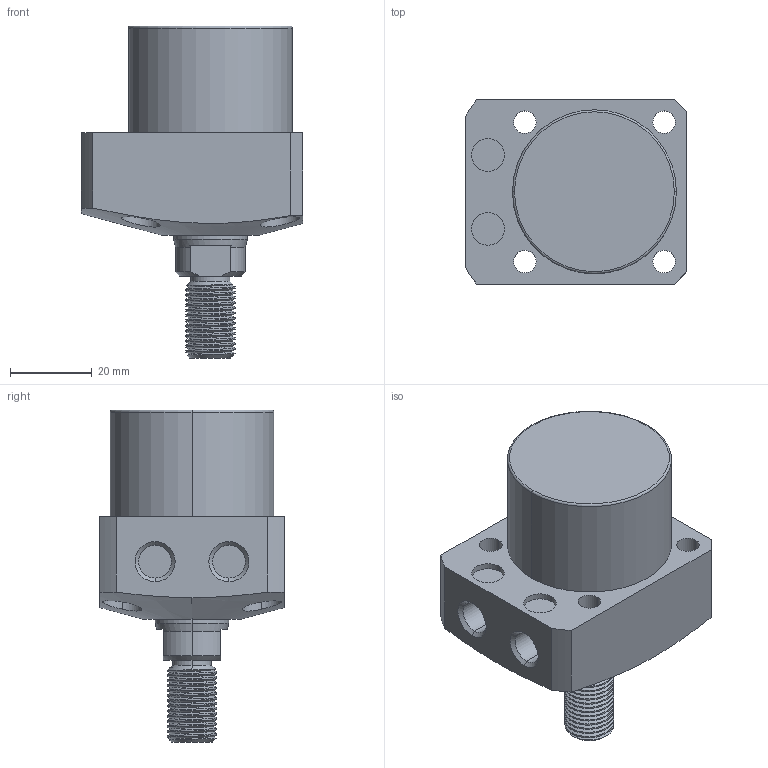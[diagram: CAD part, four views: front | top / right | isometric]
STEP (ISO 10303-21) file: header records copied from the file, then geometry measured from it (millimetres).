
FILE_DESCRIPTION (( 'STEP AP203' ), '1' );
FILE_NAME ('CLL-040CT-015.STEP', '2020-01-08T08:56:10', ( '' ), ( '' ), 'SwSTEP 2.0', 'SolidWorks 2015', '' );
FILE_SCHEMA (( 'CONFIG_CONTROL_DESIGN' ));
Length unit declared in the file: millimetre
Products named in the file (1): CLL-040CT-015
Bounding box: 54 x 45 x 81 mm (x, y, z)
Volume: 87054.2 mm3; surface area: 16057.9 mm2
Topology: 1 solids, 1 shells, 106 faces, 267 edges, 174 vertices
Faces by surface type: cylinder 63, plane 23, cone 16, torus 2, bspline 2
Entity records: 5216 total; most frequent: CARTESIAN_POINT 2734, ORIENTED_EDGE 534, DIRECTION 472, EDGE_CURVE 267, AXIS2_PLACEMENT_3D 189, VERTEX_POINT 174, EDGE_LOOP 125, ADVANCED_FACE 106
